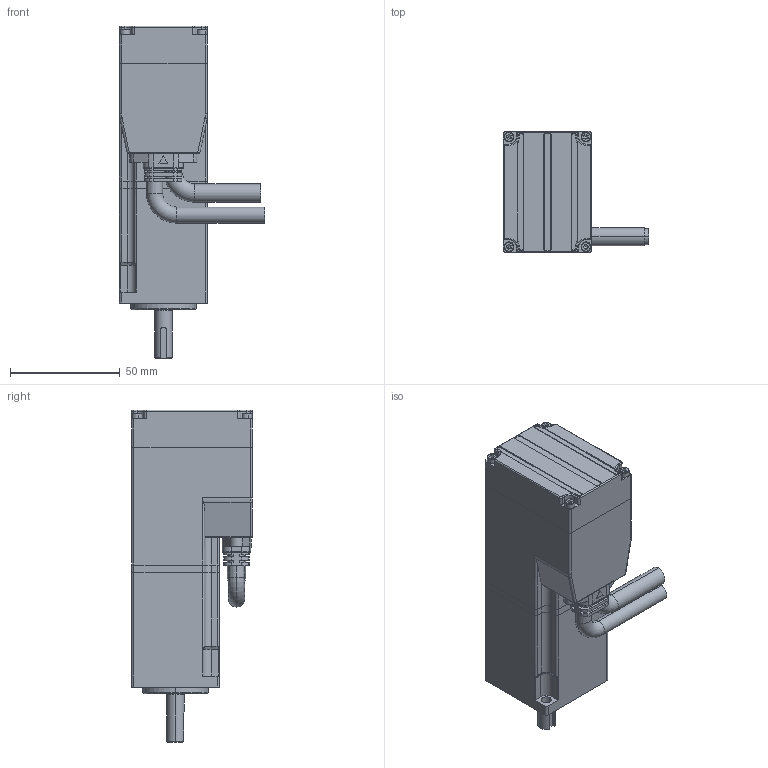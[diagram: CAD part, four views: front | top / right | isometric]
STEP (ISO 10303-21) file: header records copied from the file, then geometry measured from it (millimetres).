
FILE_DESCRIPTION((''),'2;1');
FILE_NAME('ISMK40-DMBK-000','2024-05-24T11:06:17',('RD0060'),(''),'CREO PARAMETRIC BY PTC INC, 2016510','CREO PARAMETRIC BY PTC INC, 2016510','');
FILE_SCHEMA(('CONFIG_CONTROL_DESIGN'));
Length unit declared in the file: millimetre
Products named in the file (1): ISMK40-DMBK-000
Bounding box: 65.95 x 55 x 151 mm (x, y, z)
Surface area: 59459.8 mm2 (no closed solid volume)
Topology: 0 solids, 39 shells, 867 faces, 2413 edges, 1586 vertices
Faces by surface type: cylinder 345, plane 321, cone 90, torus 80, bspline 31
Entity records: 30753 total; most frequent: CARTESIAN_POINT 8247, DIRECTION 5004, ORIENTED_EDGE 4310, EDGE_CURVE 2402, AXIS2_PLACEMENT_3D 1889, VERTEX_POINT 1586, VECTOR 1226, LINE 1226
